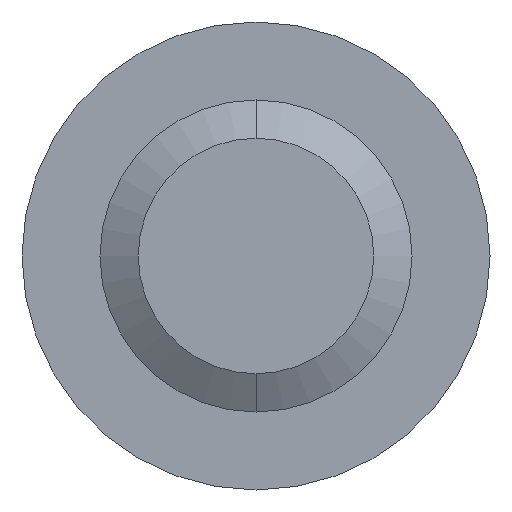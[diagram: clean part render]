
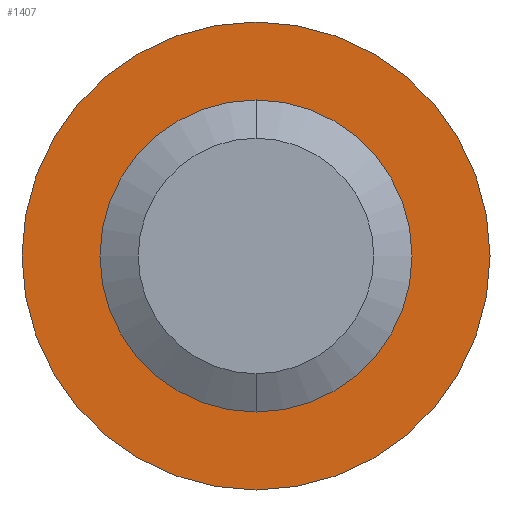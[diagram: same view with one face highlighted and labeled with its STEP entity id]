
A CAD part, front view. The second image highlights one B-rep face of the part: STEP entity #1407.
In plain terms, the highlighted planar face has unit normal (0, -1, 0).
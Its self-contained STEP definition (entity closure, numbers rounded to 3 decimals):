
#47 = VERTEX_POINT ( 'NONE', #904 ) ;
#60 = AXIS2_PLACEMENT_3D ( 'NONE', #297, #907, #1375 ) ;
#83 = ORIENTED_EDGE ( 'NONE', *, *, #543, .T. ) ;
#100 = EDGE_LOOP ( 'NONE', ( #1332, #83 ) ) ;
#122 = DIRECTION ( 'NONE',  ( 0., 0., 1. ) ) ;
#136 = DIRECTION ( 'NONE',  ( 0., 1., 0. ) ) ;
#146 = DIRECTION ( 'NONE',  ( 0., 1., 0. ) ) ;
#199 = CARTESIAN_POINT ( 'NONE',  ( 0., 20., -6. ) ) ;
#297 = CARTESIAN_POINT ( 'NONE',  ( 0., 20., 0. ) ) ;
#304 = CIRCLE ( 'NONE', #1434, 6. ) ;
#311 = VERTEX_POINT ( 'NONE', #199 ) ;
#332 = EDGE_CURVE ( 'NONE', #47, #647, #819, .T. ) ;
#342 = VERTEX_POINT ( 'NONE', #1094 ) ;
#436 = CARTESIAN_POINT ( 'NONE',  ( 0., 20., 0. ) ) ;
#450 = ORIENTED_EDGE ( 'NONE', *, *, #332, .F. ) ;
#464 = CIRCLE ( 'NONE', #1760, 6. ) ;
#543 = EDGE_CURVE ( 'NONE', #342, #311, #464, .T. ) ;
#565 = DIRECTION ( 'NONE',  ( 0., 0., 1. ) ) ;
#634 = DIRECTION ( 'NONE',  ( 0., 1., 0. ) ) ;
#637 = EDGE_CURVE ( 'NONE', #311, #342, #304, .T. ) ;
#647 = VERTEX_POINT ( 'NONE', #1372 ) ;
#658 = AXIS2_PLACEMENT_3D ( 'NONE', #1306, #1898, #842 ) ;
#747 = AXIS2_PLACEMENT_3D ( 'NONE', #800, #634, #1126 ) ;
#756 = FACE_BOUND ( 'NONE', #100, .T. ) ;
#800 = CARTESIAN_POINT ( 'NONE',  ( 0., 20., 0. ) ) ;
#815 = EDGE_CURVE ( 'NONE', #647, #47, #1208, .T. ) ;
#819 = CIRCLE ( 'NONE', #747, 9. ) ;
#842 = DIRECTION ( 'NONE',  ( 0., 0., 1. ) ) ;
#879 = CARTESIAN_POINT ( 'NONE',  ( 0., 20., 0. ) ) ;
#904 = CARTESIAN_POINT ( 'NONE',  ( 0., 20., 9. ) ) ;
#907 = DIRECTION ( 'NONE',  ( 0., 1., 0. ) ) ;
#1065 = FACE_OUTER_BOUND ( 'NONE', #1409, .T. ) ;
#1094 = CARTESIAN_POINT ( 'NONE',  ( 0., 20., 6. ) ) ;
#1126 = DIRECTION ( 'NONE',  ( 0., 0., 1. ) ) ;
#1208 = CIRCLE ( 'NONE', #658, 9. ) ;
#1306 = CARTESIAN_POINT ( 'NONE',  ( 0., 20., 0. ) ) ;
#1332 = ORIENTED_EDGE ( 'NONE', *, *, #637, .T. ) ;
#1372 = CARTESIAN_POINT ( 'NONE',  ( 0., 20., -9. ) ) ;
#1375 = DIRECTION ( 'NONE',  ( 0., 0., 1. ) ) ;
#1407 = ADVANCED_FACE ( 'NONE', ( #1065, #756 ), #1677, .F. ) ;
#1409 = EDGE_LOOP ( 'NONE', ( #1416, #450 ) ) ;
#1416 = ORIENTED_EDGE ( 'NONE', *, *, #815, .F. ) ;
#1434 = AXIS2_PLACEMENT_3D ( 'NONE', #436, #146, #122 ) ;
#1677 = PLANE ( 'NONE',  #60 ) ;
#1760 = AXIS2_PLACEMENT_3D ( 'NONE', #879, #136, #565 ) ;
#1898 = DIRECTION ( 'NONE',  ( 0., 1., 0. ) ) ;
